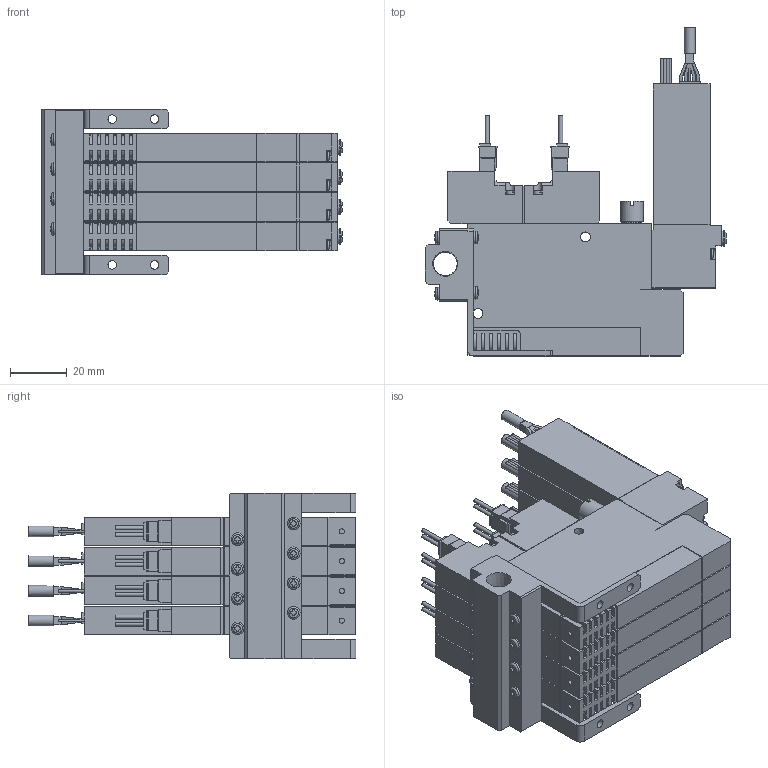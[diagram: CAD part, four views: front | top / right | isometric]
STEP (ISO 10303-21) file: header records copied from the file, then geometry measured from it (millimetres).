
FILE_DESCRIPTION(('STEP AP203'),'1');
FILE_NAME('5SS404_3D.stp','2024-09-04T13:58:13',(' '),(' '),'Spatial InterOp 3D',' ',' ');
FILE_SCHEMA(('CONFIG_CONTROL_DESIGN'));
Length unit declared in the file: millimetre
Products named in the file (5): BSC1M※※10※5SS404; Solenoid valve S; Pressure Sensor 10; Unit-S; BaseMS40R
Assembly tree (13 placements, depth 2):
  BSC1M※※10※5SS404
    Solenoid valve S  x4
    Pressure Sensor 10  x4
    Unit-S  x4
    BaseMS40R
Bounding box: 106.35 x 115.8 x 58.5 mm (x, y, z)
Volume: 235537 mm3; surface area: 94216.6 mm2
Topology: 13 solids, 13 shells, 2159 faces, 5907 edges, 3910 vertices
Faces by surface type: plane 1598, cylinder 491, sphere 24, torus 24, cone 22
Full cylindrical faces by diameter (mm): 0.9 x16, 1.4 x16, 1.8 x4, 2.5 x8, 3 x20, 3.5 x32, 3.8 x4, 4 x4, 4.134 x8, 4.5 x12, 5.5 x8, 7 x4, 7.7 x4, 8 x4, 8.422 x1
Entity records: 22458 total; most frequent: CARTESIAN_POINT 4840, ORIENTED_EDGE 3520, DIRECTION 3512, EDGE_CURVE 1760, LINE 1268, VECTOR 1268, VERTEX_POINT 1214, AXIS2_PLACEMENT_3D 1122
